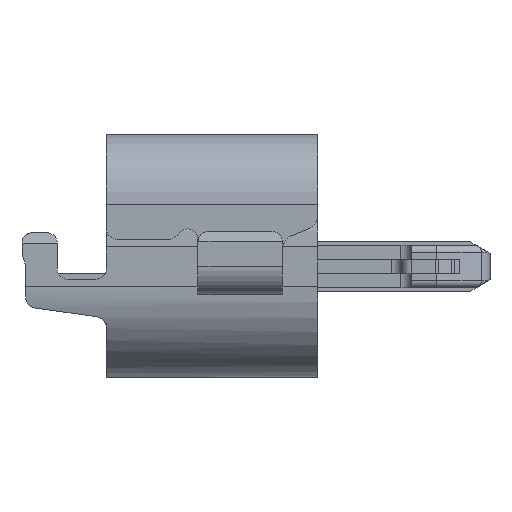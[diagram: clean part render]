
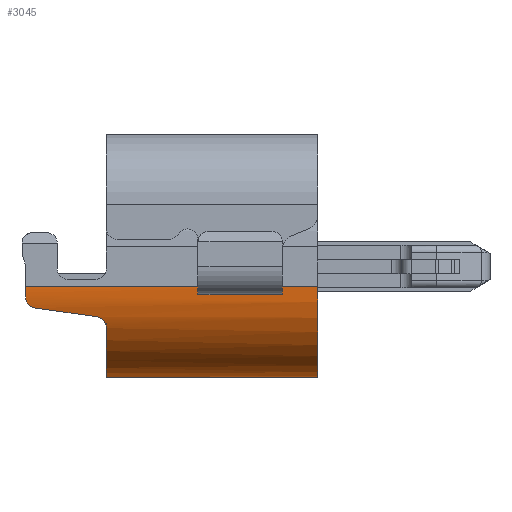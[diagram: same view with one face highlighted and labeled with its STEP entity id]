
A CAD part, left-side view. The second image highlights one B-rep face of the part: STEP entity #3045.
In plain terms, the highlighted cylindrical face has radius 1.3 mm (diameter 2.6 mm), a partial arc.
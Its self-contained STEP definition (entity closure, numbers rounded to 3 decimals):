
#1009 = CARTESIAN_POINT ( 'NONE',  ( -4.47, 4.098, -0.445 ) ) ;
#1708 = CARTESIAN_POINT ( 'NONE',  ( -4.335, 2.95, -0.876 ) ) ;
#2044 = VERTEX_POINT ( 'NONE', #3178 ) ;
#2073 = ORIENTED_EDGE ( 'NONE', *, *, #19221, .T. ) ;
#2576 = B_SPLINE_CURVE_WITH_KNOTS ( 'NONE', 3,
 ( #18577, #10879, #29662, #3567, #21304, #5938, #32041, #29156, #18744, #1009, #10713, #3054 ),
 .UNSPECIFIED., .F., .F.,
 ( 4, 1, 1, 1, 1, 1, 1, 1, 1, 4 ),
 ( 0., 0.111, 0.222, 0.333, 0.444, 0.556, 0.667, 0.778, 0.889, 1. ),
 .UNSPECIFIED. ) ;
#2734 = EDGE_CURVE ( 'NONE', #4331, #33294, #2576, .T. ) ;
#2830 = LINE ( 'NONE', #31983, #21085 ) ;
#2849 = VERTEX_POINT ( 'NONE', #8833 ) ;
#3045 = ADVANCED_FACE ( 'NONE', ( #30681 ), #25886, .T. ) ;
#3054 = CARTESIAN_POINT ( 'NONE',  ( -4.473, 4.1, -0.414 ) ) ;
#3178 = CARTESIAN_POINT ( 'NONE',  ( -4.405, 3.081, -0.714 ) ) ;
#3567 = CARTESIAN_POINT ( 'NONE',  ( -4.446, 4.011, -0.575 ) ) ;
#3948 = CARTESIAN_POINT ( 'NONE',  ( -4.48, 4.1, -0.28 ) ) ;
#4087 = CARTESIAN_POINT ( 'NONE',  ( -4.345, 2.95, -0.857 ) ) ;
#4331 = VERTEX_POINT ( 'NONE', #30476 ) ;
#4766 = CARTESIAN_POINT ( 'NONE',  ( -4.405, 3.063, -0.716 ) ) ;
#4859 = EDGE_CURVE ( 'NONE', #28038, #29655, #32265, .T. ) ;
#5938 = CARTESIAN_POINT ( 'NONE',  ( -4.453, 4.05, -0.546 ) ) ;
#6433 = EDGE_CURVE ( 'NONE', #19432, #2044, #29633, .T. ) ;
#6996 = DIRECTION ( 'NONE',  ( 0., -1., 0. ) ) ;
#7130 = EDGE_CURVE ( 'NONE', #24834, #29655, #14058, .T. ) ;
#7306 = DIRECTION ( 'NONE',  ( -1., 0., 0. ) ) ;
#7803 = CARTESIAN_POINT ( 'NONE',  ( -3.18, 4.05, -0.28 ) ) ;
#8615 = DIRECTION ( 'NONE',  ( 0., 1., 0. ) ) ;
#8833 = CARTESIAN_POINT ( 'NONE',  ( -3.18, 2.95, -1.58 ) ) ;
#9367 = AXIS2_PLACEMENT_3D ( 'NONE', #15966, #10330, #10177 ) ;
#9396 = ORIENTED_EDGE ( 'NONE', *, *, #2734, .F. ) ;
#9702 = CARTESIAN_POINT ( 'NONE',  ( -4.405, 3.081, -0.714 ) ) ;
#9735 = DIRECTION ( 'NONE',  ( 0., 0., -1. ) ) ;
#10177 = DIRECTION ( 'NONE',  ( -1., 0., 0. ) ) ;
#10330 = DIRECTION ( 'NONE',  ( 0., -1., 0. ) ) ;
#10713 = CARTESIAN_POINT ( 'NONE',  ( -4.472, 4.1, -0.424 ) ) ;
#10790 = AXIS2_PLACEMENT_3D ( 'NONE', #20654, #12293, #9735 ) ;
#10879 = CARTESIAN_POINT ( 'NONE',  ( -4.443, 3.976, -0.587 ) ) ;
#11012 = CARTESIAN_POINT ( 'NONE',  ( -4.48, -0.05, -0.28 ) ) ;
#11105 = DIRECTION ( 'NONE',  ( 0., -1., 0. ) ) ;
#11508 = CARTESIAN_POINT ( 'NONE',  ( -4.335, 2.95, -0.876 ) ) ;
#12067 = EDGE_CURVE ( 'NONE', #24834, #2849, #2830, .T. ) ;
#12273 = CARTESIAN_POINT ( 'NONE',  ( -3.18, 2.95, -0.28 ) ) ;
#12293 = DIRECTION ( 'NONE',  ( 0., 1., 0. ) ) ;
#12437 = DIRECTION ( 'NONE',  ( -0.889, 0., -0.458 ) ) ;
#13024 = EDGE_CURVE ( 'NONE', #2044, #4331, #13362, .T. ) ;
#13362 = B_SPLINE_CURVE_WITH_KNOTS ( 'NONE', 3,
 ( #19869, #32823, #22929, #22262 ),
 .UNSPECIFIED., .F., .F.,
 ( 4, 4 ),
 ( 0., 1. ),
 .UNSPECIFIED. ) ;
#13911 = CARTESIAN_POINT ( 'NONE',  ( -3.18, -0.05, -1.58 ) ) ;
#14058 = CIRCLE ( 'NONE', #10790, 1.3 ) ;
#15694 = ORIENTED_EDGE ( 'NONE', *, *, #21507, .T. ) ;
#15966 = CARTESIAN_POINT ( 'NONE',  ( -3.18, 4.1, -0.28 ) ) ;
#17402 = CARTESIAN_POINT ( 'NONE',  ( -4.4, 3.028, -0.729 ) ) ;
#18215 = DIRECTION ( 'NONE',  ( 0., -1., 0. ) ) ;
#18554 = CIRCLE ( 'NONE', #27814, 1.3 ) ;
#18577 = CARTESIAN_POINT ( 'NONE',  ( -4.443, 3.969, -0.588 ) ) ;
#18744 = CARTESIAN_POINT ( 'NONE',  ( -4.466, 4.092, -0.474 ) ) ;
#19221 = EDGE_CURVE ( 'NONE', #28038, #33294, #30080, .T. ) ;
#19432 = VERTEX_POINT ( 'NONE', #11508 ) ;
#19513 = CARTESIAN_POINT ( 'NONE',  ( -4.473, 4.1, -0.414 ) ) ;
#19869 = CARTESIAN_POINT ( 'NONE',  ( -4.405, 3.081, -0.714 ) ) ;
#20654 = CARTESIAN_POINT ( 'NONE',  ( -3.18, -0.05, -0.28 ) ) ;
#20673 = VECTOR ( 'NONE', #11105, 1000. ) ;
#21085 = VECTOR ( 'NONE', #8615, 1000. ) ;
#21304 = CARTESIAN_POINT ( 'NONE',  ( -4.449, 4.031, -0.562 ) ) ;
#21507 = EDGE_CURVE ( 'NONE', #19432, #2849, #18554, .T. ) ;
#22262 = CARTESIAN_POINT ( 'NONE',  ( -4.443, 3.969, -0.588 ) ) ;
#22669 = ORIENTED_EDGE ( 'NONE', *, *, #13024, .F. ) ;
#22929 = CARTESIAN_POINT ( 'NONE',  ( -4.433, 3.673, -0.631 ) ) ;
#23042 = ORIENTED_EDGE ( 'NONE', *, *, #12067, .F. ) ;
#23934 = AXIS2_PLACEMENT_3D ( 'NONE', #7803, #18215, #7306 ) ;
#24834 = VERTEX_POINT ( 'NONE', #13911 ) ;
#25179 = ORIENTED_EDGE ( 'NONE', *, *, #4859, .F. ) ;
#25230 = CARTESIAN_POINT ( 'NONE',  ( -4.364, 2.957, -0.818 ) ) ;
#25886 = CYLINDRICAL_SURFACE ( 'NONE', #23934, 1.3 ) ;
#26774 = ORIENTED_EDGE ( 'NONE', *, *, #6433, .F. ) ;
#27814 = AXIS2_PLACEMENT_3D ( 'NONE', #12273, #6996, #12437 ) ;
#28038 = VERTEX_POINT ( 'NONE', #32844 ) ;
#29156 = CARTESIAN_POINT ( 'NONE',  ( -4.461, 4.081, -0.501 ) ) ;
#29255 = EDGE_LOOP ( 'NONE', ( #32013, #25179, #2073, #9396, #22669, #26774, #15694, #23042 ) ) ;
#29633 = B_SPLINE_CURVE_WITH_KNOTS ( 'NONE', 3,
 ( #1708, #4087, #25230, #32741, #17402, #4766, #9702 ),
 .UNSPECIFIED., .F., .F.,
 ( 4, 1, 1, 1, 4 ),
 ( 0., 0.25, 0.5, 0.75, 1. ),
 .UNSPECIFIED. ) ;
#29655 = VERTEX_POINT ( 'NONE', #11012 ) ;
#29662 = CARTESIAN_POINT ( 'NONE',  ( -4.444, 3.99, -0.584 ) ) ;
#30080 = CIRCLE ( 'NONE', #9367, 1.3 ) ;
#30476 = CARTESIAN_POINT ( 'NONE',  ( -4.443, 3.969, -0.588 ) ) ;
#30681 = FACE_OUTER_BOUND ( 'NONE', #29255, .T. ) ;
#31983 = CARTESIAN_POINT ( 'NONE',  ( -3.18, -0.05, -1.58 ) ) ;
#32013 = ORIENTED_EDGE ( 'NONE', *, *, #7130, .T. ) ;
#32041 = CARTESIAN_POINT ( 'NONE',  ( -4.457, 4.067, -0.526 ) ) ;
#32265 = LINE ( 'NONE', #3948, #20673 ) ;
#32741 = CARTESIAN_POINT ( 'NONE',  ( -4.386, 2.985, -0.767 ) ) ;
#32823 = CARTESIAN_POINT ( 'NONE',  ( -4.42, 3.377, -0.673 ) ) ;
#32844 = CARTESIAN_POINT ( 'NONE',  ( -4.48, 4.1, -0.28 ) ) ;
#33294 = VERTEX_POINT ( 'NONE', #19513 ) ;
